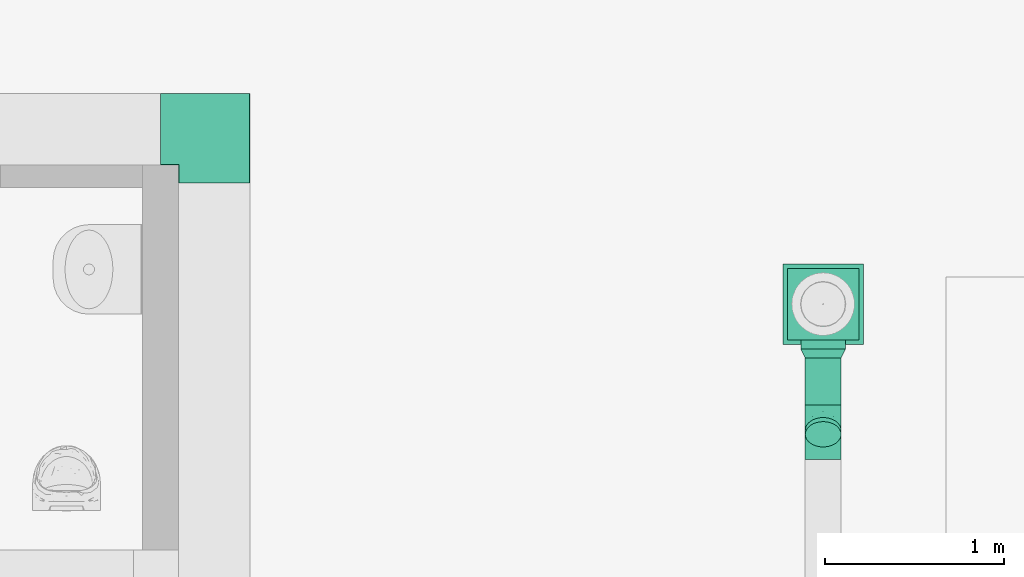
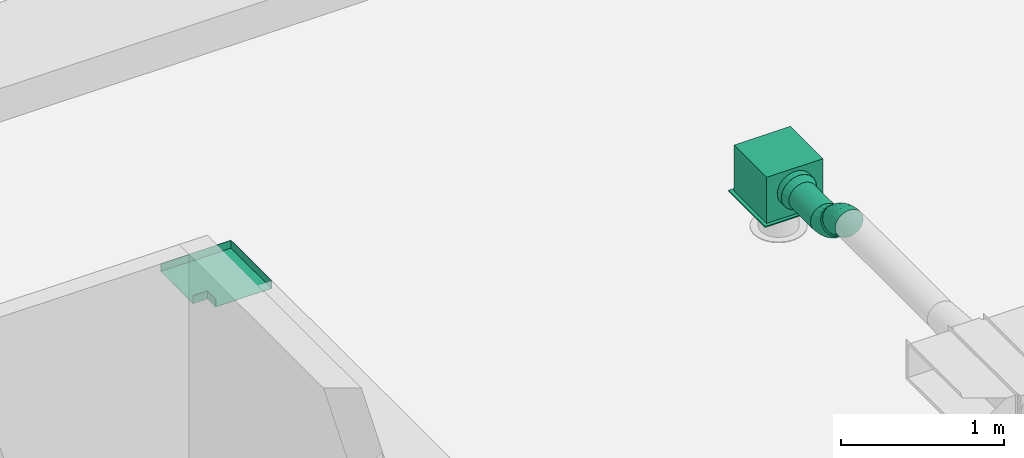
# One storey, part 260 of 302: 4 flow fittings, 2 flow segments, 1 flow terminal.
"""IFC2X3 building model written with IfcOpenShell, lengths in metres."""

from ifc_helpers import new_model, entity, si_unit, converted_unit, derived_unit, direction, frame, frame_2d, origin, origin_2d_with_axis, place, context, subcontext, project, spatial, rectangle, circle, extrude, faceted_brep, source, transform, mapped, material, material_list, type_object, type_shapes, element, save


model = new_model("IFC2X3")

# Units and contexts
model_context = context("Model", 3, precision=1e-05, world=origin(), true_north=direction((6.12303176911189e-17, 1.0)))
body_context = subcontext(model_context, "Body", "Model", "MODEL_VIEW")
ifc_project = project(units=[si_unit("LENGTHUNIT", "METRE"), si_unit("AREAUNIT", "SQUARE_METRE"), si_unit("VOLUMEUNIT", "CUBIC_METRE"), converted_unit("PLANEANGLEUNIT", "DEGREE", entity("IfcRatioMeasure", 0.0174532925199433), si_unit("PLANEANGLEUNIT", "RADIAN"), dimensions=[0, 0, 0, 0, 0, 0, 0]), si_unit("MASSUNIT", "GRAM", prefix="KILO"), derived_unit("MASSDENSITYUNIT", [(si_unit("MASSUNIT", "GRAM", prefix="KILO"), 1), (si_unit("LENGTHUNIT", "METRE"), -3)]), derived_unit("MOMENTOFINERTIAUNIT", [(si_unit("LENGTHUNIT", "METRE"), 4)]), si_unit("TIMEUNIT", "SECOND"), si_unit("FREQUENCYUNIT", "HERTZ"), si_unit("THERMODYNAMICTEMPERATUREUNIT", "DEGREE_CELSIUS"), derived_unit("THERMALTRANSMITTANCEUNIT", [(si_unit("MASSUNIT", "GRAM", prefix="KILO"), 1), (si_unit("THERMODYNAMICTEMPERATUREUNIT", "KELVIN"), -1), (si_unit("TIMEUNIT", "SECOND"), -3)]), derived_unit("VOLUMETRICFLOWRATEUNIT", [(si_unit("LENGTHUNIT", "METRE"), 3), (si_unit("TIMEUNIT", "SECOND"), -1)]), si_unit("ELECTRICCURRENTUNIT", "AMPERE"), si_unit("ELECTRICVOLTAGEUNIT", "VOLT"), si_unit("POWERUNIT", "WATT"), si_unit("FORCEUNIT", "NEWTON", prefix="KILO"), si_unit("ILLUMINANCEUNIT", "LUX"), si_unit("LUMINOUSFLUXUNIT", "LUMEN"), si_unit("LUMINOUSINTENSITYUNIT", "CANDELA"), derived_unit("USERDEFINED", [(si_unit("MASSUNIT", "GRAM", prefix="KILO"), -1), (si_unit("LENGTHUNIT", "METRE"), -2), (si_unit("TIMEUNIT", "SECOND"), 3), (si_unit("LUMINOUSFLUXUNIT", "LUMEN"), 1)]), derived_unit("LINEARVELOCITYUNIT", [(si_unit("LENGTHUNIT", "METRE"), 1), (si_unit("TIMEUNIT", "SECOND"), -1)]), si_unit("PRESSUREUNIT", "PASCAL"), derived_unit("USERDEFINED", [(si_unit("LENGTHUNIT", "METRE"), -2), (si_unit("MASSUNIT", "GRAM", prefix="KILO"), 1), (si_unit("TIMEUNIT", "SECOND"), -2)]), derived_unit("LINEARFORCEUNIT", [(si_unit("MASSUNIT", "GRAM", prefix="KILO"), 1), (si_unit("LENGTHUNIT", "METRE"), 1), (si_unit("TIMEUNIT", "SECOND"), -2), (si_unit("LENGTHUNIT", "METRE"), -1)]), derived_unit("PLANARFORCEUNIT", [(si_unit("MASSUNIT", "GRAM", prefix="KILO"), 1), (si_unit("LENGTHUNIT", "METRE"), 1), (si_unit("TIMEUNIT", "SECOND"), -2), (si_unit("LENGTHUNIT", "METRE"), -2)])], contexts=[model_context])

# Site, building, storey
site_placement = place(None, origin())
site = spatial("IfcSite", under=ifc_project, at=site_placement, Name="Default", CompositionType="ELEMENT")
building_placement = place(site_placement, origin())
building = spatial("IfcBuilding", under=site, at=building_placement, CompositionType="ELEMENT")
storey_placement = place(building_placement, frame((0.0, 0.0, -1.3)))
storey = spatial("IfcBuildingStorey", under=building, at=storey_placement, Name="00_EG", CompositionType="ELEMENT", Elevation=-1.3)

# Flow fitting
ifc_material = material(Name="<Unnamed>")
cable_carrier_fitting_type = type_object("IfcCableCarrierFittingType", Name="Kabeltrasse - Bogen (Ecke) reduzierend:Standard", PredefinedType="NOTDEFINED", material=ifc_material)
shared_shape_1 = source(origin(), body_context, "Body", "Brep", [
    faceted_brep([(-0.299999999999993, -0.200000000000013, -0.0300000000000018), (-0.299999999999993, -0.200000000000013, 0.0299999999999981), (-0.299999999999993, -0.197460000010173, 0.0299999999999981), (-0.299999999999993, -0.197460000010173, -0.0274600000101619), (-0.299999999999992, 0.197460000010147, -0.0274600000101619), (-0.299999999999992, 0.197460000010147, 0.0299999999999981), (-0.299999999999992, 0.199999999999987, 0.0299999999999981), (-0.299999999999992, 0.199999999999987, -0.0300000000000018), (0.200000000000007, 0.299999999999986, -0.0300000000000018), (-0.199999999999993, 0.299999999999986, -0.0300000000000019), (-0.199999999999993, 0.299999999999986, 0.0299999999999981), (-0.197460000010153, 0.299999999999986, 0.0299999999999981), (-0.197460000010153, 0.299999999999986, -0.0274600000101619), (0.197460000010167, 0.299999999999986, -0.0274600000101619), (0.197460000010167, 0.299999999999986, 0.0299999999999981), (0.200000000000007, 0.299999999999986, 0.0299999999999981), (0.200000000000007, -0.200000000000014, -0.0300000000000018), (0.200000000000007, -0.200000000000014, 0.0299999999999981), (0.197460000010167, -0.197460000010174, 0.0299999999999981), (0.197460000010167, -0.197460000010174, -0.0274600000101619), (-0.197460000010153, 0.197460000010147, -0.0274600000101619), (-0.197460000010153, 0.197460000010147, 0.0299999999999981), (-0.199999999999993, 0.199999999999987, 0.0299999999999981), (-0.199999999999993, 0.199999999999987, -0.0300000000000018)], [[[0, 1, 2, 3, 4, 5, 6, 7]], [[8, 9, 10, 11, 12, 13, 14, 15]], [[1, 0, 16, 17]], [[2, 1, 17, 15, 14, 18]], [[3, 2, 18, 19]], [[4, 3, 19, 13, 12, 20]], [[5, 4, 20, 21]], [[6, 5, 21, 11, 10, 22]], [[7, 6, 22, 23]], [[0, 7, 23, 9, 8, 16]], [[17, 16, 8, 15]], [[19, 18, 14, 13]], [[21, 20, 12, 11]], [[23, 22, 10, 9]]]),
])
type_shapes(cable_carrier_fitting_type, [shared_shape_1])
flow_fitting_1_placement = place(storey_placement, frame((-262.460111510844, 25.9230889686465, 4.85), z_axis=(0.0, 0.0, 1.0), x_axis=(0.0, 1.0, 0.0)))
element("IfcFlowFitting", 1, at=flow_fitting_1_placement, inside=storey, type_object=cable_carrier_fitting_type, material=ifc_material, Name="Kabeltrasse - Bogen (Ecke) reduzierend:Standard", ObjectType="Kabeltrasse - Bogen (Ecke) reduzierend:Standard", context=body_context, shape_type="MappedRepresentation", body=[
    mapped(shared_shape_1, transform((0.0, 0.0, 0.0), scale=1.0)),
])

# Flow segments
duct_segment_type = type_object("IfcDuctSegmentType", Name="Rund:STR_Segment_RND_GS_EA", PredefinedType="NOTDEFINED")
flow_segment_1_placement = place(storey_placement, origin())
element("IfcFlowSegment", 2, at=flow_segment_1_placement, inside=storey, type_object=duct_segment_type, Name="Rund:STR_Segment_RND_GS_EA", ObjectType="Rund:STR_Segment_RND_GS_EA", context=body_context, shape_type="SweptSolid", body=[
    extrude(circle(Radius=0.1, at=origin_2d_with_axis()), frame((-259.059474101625, 24.3826301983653, 4.985), z_axis=(0.0, 1.0, 0.0), x_axis=(-1.0, 0.0, 0.0)), (0.0, 0.0, 1.0), 0.262914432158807),
])
flow_segment_2_placement = place(storey_placement, origin())
element("IfcFlowSegment", 3, at=flow_segment_2_placement, inside=storey, type_object=duct_segment_type, Name="Rund:STR_Segment_RND_GS_EA", ObjectType="Rund:STR_Segment_RND_GS_EA", context=body_context, shape_type="SweptSolid", body=[
    extrude(circle(Radius=0.1, at=frame_2d((3.46517481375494e-14, -4.59428346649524e-15), x_axis=(1.0, 0.0))), frame((-259.059474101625, 24.2183662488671, 5.06642126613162), z_axis=(0.0, 0.707106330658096, -0.707107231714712), x_axis=(-1.0, 0.0, 0.0)), (0.0, 0.0, 1.0), 0.0323041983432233),
])

# Flow terminal
ifc_material_list = material_list([ifc_material, ifc_material, ifc_material])
air_terminal_type = type_object("IfcAirTerminalType", Name="Drallauslass Zuluft seitlich:600 quadratisch", PredefinedType="NOTDEFINED", material=ifc_material_list)
shared_shape_2 = source(origin(), body_context, "Body", "SweptSolid", [
    extrude(rectangle(XDim=0.449999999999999, YDim=0.450000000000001, at=origin_2d_with_axis()), frame((0.0, 0.0, 2.692), z_axis=(0.0, 0.0, 1.0), x_axis=(-1.0, 0.0, 0.0)), (0.0, 0.0, 1.0), 0.00800000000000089),
    extrude(circle(Radius=0.125, at=frame_2d((1.22275294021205e-18, 0.0), x_axis=(1.0, 0.0))), frame((-0.25, 0.0, 2.89500000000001), z_axis=(1.0, 0.0, 0.0), x_axis=(0.0, 1.0, 0.0)), (0.0, 0.0, 1.0), 0.0499999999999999),
    extrude(rectangle(XDim=0.399999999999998, YDim=0.4, at=origin_2d_with_axis()), frame((0.0, 0.0, 2.7), z_axis=(0.0, 0.0, 1.0), x_axis=(-1.0, 0.0, 0.0)), (0.0, 0.0, 1.0), 0.345000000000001),
])
type_shapes(air_terminal_type, [shared_shape_2])
flow_terminal_placement = place(storey_placement, frame((-259.059474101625, 24.9455446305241, 2.08999999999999), z_axis=(0.0, 0.0, 1.0), x_axis=(0.0, 1.0, 0.0)))
element("IfcFlowTerminal", 4, at=flow_terminal_placement, inside=storey, type_object=air_terminal_type, material=ifc_material, Name="Drallauslass Zuluft seitlich:600 quadratisch", ObjectType="Drallauslass Zuluft seitlich:600 quadratisch", context=body_context, shape_type="MappedRepresentation", body=[
    mapped(shared_shape_2, transform((0.0, 0.0, 0.0), scale=1.0)),
])

# Flow fittings
duct_fitting_type_1 = type_object("IfcDuctFittingType", Name="STR_RND_Transition:STR_Transition_RND_GS_EA", PredefinedType="NOTDEFINED", material=ifc_material)
shared_shape_3 = source(origin(), body_context, "Body", "Brep", [
    faceted_brep([(0.0500000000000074, -0.0587785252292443, -0.0809016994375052), (0.0500000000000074, -0.0309016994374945, -0.0951056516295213), (0.0500000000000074, 0.0, -0.10000000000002), (0.0500000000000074, 0.0309016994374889, -0.0951056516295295), (0.0500000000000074, 0.058778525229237, -0.0809016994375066), (0.0500000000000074, 0.0809016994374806, -0.0587785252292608), (0.0500000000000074, 0.0951056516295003, -0.0309016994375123), (0.0500000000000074, 0.0999999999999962, 0.0), (0.0500000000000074, 0.0951056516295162, 0.0309016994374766), (0.0500000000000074, 0.0809016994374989, 0.0587785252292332), (0.0500000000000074, 0.0587785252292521, 0.0809016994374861), (0.0500000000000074, 0.0309016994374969, 0.0951056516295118), (0.0500000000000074, 0.0, 0.0999999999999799), (0.0500000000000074, -0.0309016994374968, 0.0951056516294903), (0.0500000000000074, -0.058778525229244, 0.0809016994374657), (0.0500000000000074, -0.0809016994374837, 0.0587785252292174), (0.0500000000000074, -0.0951056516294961, 0.0309016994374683), (0.0500000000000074, -0.100000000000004, 0.0), (0.0500000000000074, -0.0951056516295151, -0.030901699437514), (0.0500000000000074, -0.0809016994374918, -0.0587785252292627), (0.0, -0.124999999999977, 0.0), (0.0, -0.118882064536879, 0.038627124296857), (0.0, -0.101127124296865, 0.073473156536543), (0.0, -0.0734731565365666, 0.101127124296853), (0.0, -0.0386271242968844, 0.118882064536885), (0.0, 0.0, 0.125000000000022), (0.0, 0.0386271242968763, 0.11888206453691), (0.0, 0.0734731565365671, 0.101127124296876), (0.0, 0.101127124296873, 0.0734731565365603), (0.0, 0.118882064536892, 0.038627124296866), (0.0, 0.124999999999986, 0.0), (0.0, 0.118882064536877, -0.0386271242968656), (0.0, 0.101127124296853, -0.0734731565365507), (0.0, 0.0734731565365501, -0.101127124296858), (0.0, 0.0386271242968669, -0.118882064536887), (0.0, 0.0, -0.124999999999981), (0.0, -0.0386271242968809, -0.118882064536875), (0.0, -0.0734731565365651, -0.101127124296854), (0.0, -0.101127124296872, -0.0734731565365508), (0.0, -0.118882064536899, -0.0386271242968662)], [[[0, 1, 2, 3, 4, 5, 6, 7, 8, 9, 10, 11, 12, 13, 14, 15, 16, 17, 18, 19]], [[20, 21, 22, 23, 24, 25, 26, 27, 28, 29, 30, 31, 32, 33, 34, 35, 36, 37, 38, 39]], [[26, 25, 12, 11]], [[27, 26, 11, 10]], [[10, 9, 28, 27]], [[8, 7, 30, 29]], [[9, 8, 29, 28]], [[21, 20, 17, 16]], [[22, 21, 16, 15]], [[15, 14, 23, 22]], [[13, 12, 25, 24]], [[14, 13, 24, 23]], [[36, 35, 2, 1]], [[37, 36, 1, 0]], [[0, 19, 38, 37]], [[18, 17, 20, 39]], [[19, 18, 39, 38]], [[31, 30, 7, 6]], [[32, 31, 6, 5]], [[5, 4, 33, 32]], [[3, 2, 35, 34]], [[4, 3, 34, 33]]]),
])
type_shapes(duct_fitting_type_1, [shared_shape_3])
flow_fitting_2_placement = place(storey_placement, frame((-259.059474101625, 24.6955446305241, 4.985), z_axis=(0.0, 0.0, 1.0), x_axis=(0.0, -1.0, 0.0)))
element("IfcFlowFitting", 5, at=flow_fitting_2_placement, inside=storey, type_object=duct_fitting_type_1, material=ifc_material, Name="STR_RND_Transition:STR_Transition_RND_GS_EA", ObjectType="STR_RND_Transition:STR_Transition_RND_GS_EA", context=body_context, shape_type="MappedRepresentation", body=[
    mapped(shared_shape_3, transform((0.0, 0.0, 0.0), scale=1.0)),
])
duct_fitting_type_2 = type_object("IfcDuctFittingType", Name="STR_RND_Elbow:STR_Elbow_RND_GS_EA", PredefinedType="NOTDEFINED", material=ifc_material)
shared_shape_4 = source(origin(), body_context, "Body", "Brep", [
    faceted_brep([(-0.0438246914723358, 0.00384295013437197, 0.0999999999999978), (-0.0498533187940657, 0.0341508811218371, 0.0951056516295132), (-0.0828427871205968, 0.0309016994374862, 0.0951056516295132), (-0.0828427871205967, 0.0, 0.0999999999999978), (-0.0552918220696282, 0.061492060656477, 0.0809016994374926), (-0.0828427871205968, 0.0587785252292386, 0.0809016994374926), (-0.0596078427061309, 0.0831901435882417, 0.0587785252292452), (-0.0828427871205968, 0.0809016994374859, 0.0587785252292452), (-0.0623788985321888, 0.097121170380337, 0.0309016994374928), (-0.0828427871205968, 0.0951056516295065, 0.0309016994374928), (-0.0633337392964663, 0.101921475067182, 0.0), (-0.0828427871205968, 0.0999999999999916, 0.0), (-0.0623788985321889, 0.0971211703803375, -0.030901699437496), (-0.0828427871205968, 0.095105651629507, -0.030901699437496), (-0.059607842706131, 0.0831901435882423, -0.0587785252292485), (-0.0828427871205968, 0.0809016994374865, -0.0587785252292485), (-0.0552918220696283, 0.0614920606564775, -0.0809016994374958), (-0.0828427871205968, 0.0587785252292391, -0.0809016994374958), (-0.0498533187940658, 0.0341508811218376, -0.0951056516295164), (-0.0828427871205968, 0.0309016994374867, -0.0951056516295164), (-0.043824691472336, 0.00384295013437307, -0.100000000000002), (-0.0828427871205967, 0.0, -0.100000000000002), (-0.037796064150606, -0.0264649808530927, -0.0951056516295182), (-0.0828427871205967, -0.0309016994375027, -0.0951056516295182), (-0.0323575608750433, -0.0538061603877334, -0.0809016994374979), (-0.0828427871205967, -0.0587785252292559, -0.0809016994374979), (-0.0280415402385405, -0.075504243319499, -0.0587785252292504), (-0.0828427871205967, -0.080901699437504, -0.0587785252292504), (-0.0252704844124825, -0.0894352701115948, -0.0309016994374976), (-0.0828427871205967, -0.0951056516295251, -0.0309016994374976), (-0.0243156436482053, -0.0942355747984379, 0.0), (-0.0828427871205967, -0.100000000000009, 0.0), (-0.0252704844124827, -0.0894352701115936, 0.0309016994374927), (-0.0828427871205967, -0.0951056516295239, 0.0309016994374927), (-0.0280415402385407, -0.0755042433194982, 0.0587785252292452), (-0.0828427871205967, -0.0809016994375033, 0.0587785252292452), (-0.0323575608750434, -0.0538061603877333, 0.0809016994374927), (-0.0828427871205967, -0.0587785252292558, 0.0809016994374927), (-0.0377960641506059, -0.0264649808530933, 0.0951056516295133), (-0.0828427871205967, -0.0309016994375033, 0.0951056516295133), (-0.00630604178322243, 0.0152241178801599, 0.0999999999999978), (-0.0181316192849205, 0.0437735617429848, 0.0951056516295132), (-0.028799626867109, 0.0695283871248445, 0.0809016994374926), (-0.037265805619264, 0.0899675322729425, 0.0587785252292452), (-0.0427014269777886, 0.103090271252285, 0.0309016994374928), (-0.0445744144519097, 0.107612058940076, 0.0), (-0.0427014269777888, 0.103090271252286, -0.030901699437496), (-0.0372658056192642, 0.089967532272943, -0.0587785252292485), (-0.0287996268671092, 0.069528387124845, -0.0809016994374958), (-0.0181316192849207, 0.0437735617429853, -0.0951056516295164), (-0.00630604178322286, 0.015224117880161, -0.100000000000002), (0.00551953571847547, -0.0133253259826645, -0.0951056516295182), (0.0161875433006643, -0.039080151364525, -0.0809016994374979), (0.0246537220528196, -0.0595192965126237, -0.0587785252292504), (0.0300893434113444, -0.0726420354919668, -0.0309016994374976), (0.0319623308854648, -0.077163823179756, 0.0), (0.0300893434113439, -0.0726420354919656, 0.0309016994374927), (0.0246537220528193, -0.059519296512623, 0.0587785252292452), (0.0161875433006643, -0.0390801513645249, 0.0809016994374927), (0.0055195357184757, -0.0133253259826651, 0.0951056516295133), (0.0282713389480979, 0.0337061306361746, 0.0999999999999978), (0.0111032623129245, 0.0593999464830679, 0.0951056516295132), (-0.00438428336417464, 0.0825786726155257, 0.0809016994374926), (-0.0166752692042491, 0.100973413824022, 0.0587785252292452), (-0.0245665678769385, 0.112783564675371, 0.0309016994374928), (-0.0272857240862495, 0.116853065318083, 0.0), (-0.0245665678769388, 0.112783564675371, -0.030901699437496), (-0.0166752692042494, 0.100973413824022, -0.0587785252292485), (-0.00438428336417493, 0.0825786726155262, -0.0809016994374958), (0.0111032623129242, 0.0593999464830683, -0.0951056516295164), (0.0282713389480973, 0.0337061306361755, -0.100000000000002), (0.0454394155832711, 0.00801231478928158, -0.0951056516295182), (0.0609269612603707, -0.0151664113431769, -0.0809016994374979), (0.0732179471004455, -0.0335611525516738, -0.0587785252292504), (0.0811092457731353, -0.0453713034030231, -0.0309016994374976), (0.0838284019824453, -0.049440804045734, 0.0), (0.0811092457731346, -0.0453713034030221, 0.0309016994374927), (0.0732179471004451, -0.0335611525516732, 0.0587785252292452), (0.0609269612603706, -0.0151664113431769, 0.0809016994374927), (0.0454394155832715, 0.00801231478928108, 0.0951056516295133), (0.0585786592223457, 0.0585787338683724, 0.0999999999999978), (0.0367278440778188, 0.0804295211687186, 0.0951056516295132), (0.0170159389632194, 0.10014140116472, 0.0809016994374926), (0.00137248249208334, 0.115784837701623, 0.0587785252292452), (-0.00867123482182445, 0.125828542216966, 0.0309016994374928), (-0.0121320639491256, 0.129289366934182, 0.0), (-0.00867123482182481, 0.125828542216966, -0.030901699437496), (0.00137248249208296, 0.115784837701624, -0.0587785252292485), (0.0170159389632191, 0.10014140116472, -0.0809016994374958), (0.0367278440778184, 0.080429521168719, -0.0951056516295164), (0.0585786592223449, 0.0585787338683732, -0.100000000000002), (0.0804294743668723, 0.0367279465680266, -0.0951056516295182), (0.100141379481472, 0.0170160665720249, -0.0809016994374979), (0.115784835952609, 0.00137263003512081, -0.0587785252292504), (0.125828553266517, -0.00867107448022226, -0.0309016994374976), (0.129289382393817, -0.0121318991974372, 0.0), (0.125828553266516, -0.00867107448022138, 0.0309016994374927), (0.115784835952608, 0.00137263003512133, 0.0587785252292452), (0.100141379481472, 0.017016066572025, 0.0809016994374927), (0.0804294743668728, 0.0367279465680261, 0.0951056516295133)], [[[0, 1, 2, 3]], [[1, 4, 5, 2]], [[4, 6, 7, 5]], [[6, 8, 9, 7]], [[8, 10, 11, 9]], [[10, 12, 13, 11]], [[12, 14, 15, 13]], [[14, 16, 17, 15]], [[16, 18, 19, 17]], [[18, 20, 21, 19]], [[20, 22, 23, 21]], [[22, 24, 25, 23]], [[24, 26, 27, 25]], [[26, 28, 29, 27]], [[28, 30, 31, 29]], [[30, 32, 33, 31]], [[32, 34, 35, 33]], [[34, 36, 37, 35]], [[36, 38, 39, 37]], [[38, 0, 3, 39]], [[40, 41, 1, 0]], [[41, 42, 4, 1]], [[42, 43, 6, 4]], [[43, 44, 8, 6]], [[44, 45, 10, 8]], [[45, 46, 12, 10]], [[46, 47, 14, 12]], [[47, 48, 16, 14]], [[48, 49, 18, 16]], [[49, 50, 20, 18]], [[50, 51, 22, 20]], [[51, 52, 24, 22]], [[52, 53, 26, 24]], [[53, 54, 28, 26]], [[54, 55, 30, 28]], [[55, 56, 32, 30]], [[56, 57, 34, 32]], [[57, 58, 36, 34]], [[58, 59, 38, 36]], [[59, 40, 0, 38]], [[60, 61, 41, 40]], [[61, 62, 42, 41]], [[62, 63, 43, 42]], [[63, 64, 44, 43]], [[64, 65, 45, 44]], [[65, 66, 46, 45]], [[66, 67, 47, 46]], [[67, 68, 48, 47]], [[68, 69, 49, 48]], [[69, 70, 50, 49]], [[70, 71, 51, 50]], [[71, 72, 52, 51]], [[72, 73, 53, 52]], [[73, 74, 54, 53]], [[74, 75, 55, 54]], [[75, 76, 56, 55]], [[76, 77, 57, 56]], [[77, 78, 58, 57]], [[78, 79, 59, 58]], [[79, 60, 40, 59]], [[80, 81, 61, 60]], [[81, 82, 62, 61]], [[82, 83, 63, 62]], [[83, 84, 64, 63]], [[84, 85, 65, 64]], [[85, 86, 66, 65]], [[86, 87, 67, 66]], [[87, 88, 68, 67]], [[88, 89, 69, 68]], [[89, 90, 70, 69]], [[90, 91, 71, 70]], [[91, 92, 72, 71]], [[92, 93, 73, 72]], [[93, 94, 74, 73]], [[94, 95, 75, 74]], [[95, 96, 76, 75]], [[96, 97, 77, 76]], [[97, 98, 78, 77]], [[98, 99, 79, 78]], [[99, 80, 60, 79]], [[3, 2, 5, 7, 9, 11, 13, 15, 17, 19, 21, 23, 25, 27, 29, 31, 33, 35, 37, 39]], [[99, 98, 97, 96, 95, 94, 93, 92, 91, 90, 89, 88, 87, 86, 85, 84, 83, 82, 81, 80]]]),
])
type_shapes(duct_fitting_type_2, [shared_shape_4])
for number, where, z_axis, x_axis in (
    (6, (-259.059474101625, 24.2997874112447, 4.98500000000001), (-1.0, 0.0, 0.0), (0.0, -1.0, 0.0)),
    (7, (-259.059474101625, 24.1597875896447, 5.12499999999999), (1.0, 0.0, 0.0), (0.0, -0.707106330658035, 0.707107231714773)),
):
    element("IfcFlowFitting", number, at=place(storey_placement, frame(where, z_axis=z_axis, x_axis=x_axis)), inside=storey, type_object=duct_fitting_type_2, material=ifc_material, Name="STR_RND_Elbow:STR_Elbow_RND_GS_EA", ObjectType="STR_RND_Elbow:STR_Elbow_RND_GS_EA", context=body_context, shape_type="MappedRepresentation", body=[
        mapped(shared_shape_4, transform((0.0, 0.0, 0.0), scale=1.0)),
    ])

save(model, "model.ifc")
